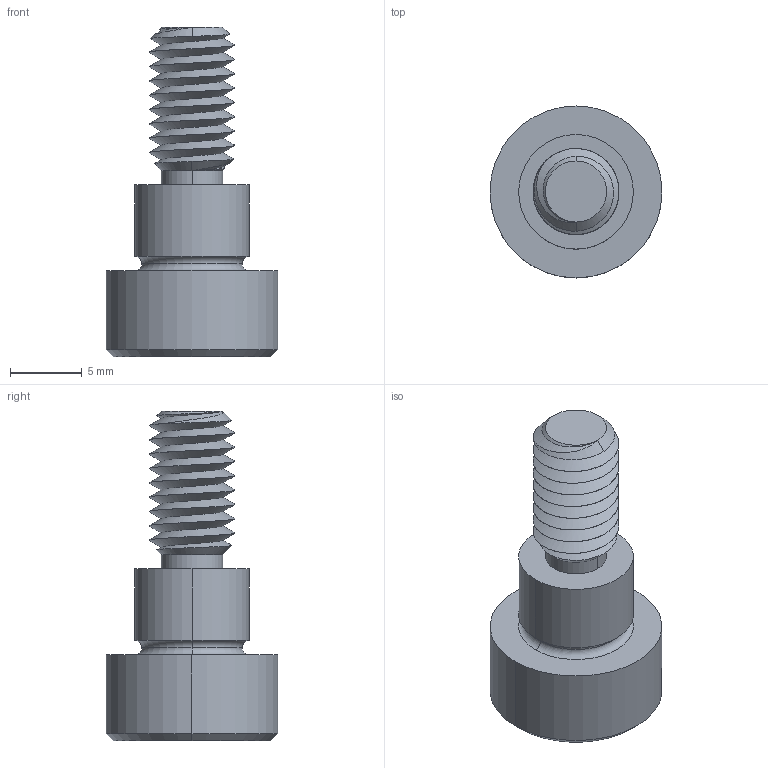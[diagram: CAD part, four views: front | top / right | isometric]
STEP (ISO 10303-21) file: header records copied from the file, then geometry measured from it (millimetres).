
FILE_DESCRIPTION (( 'STEP AP203' ), '1' );
FILE_NAME ('P0130.080-006-B2.step', '2021-11-09T21:33:54', ( '' ), ( '' ), 'SwSTEP 2.0', 'SolidWorks 2019', '' );
FILE_SCHEMA (( 'CONFIG_CONTROL_DESIGN' ));
Length unit declared in the file: millimetre
Products named in the file (1): P0130.080-006-B2
Bounding box: 12 x 12 x 23 mm (x, y, z)
Volume: 1126.9 mm3; surface area: 983.6 mm2
Topology: 1 solids, 1 shells, 60 faces, 142 edges, 85 vertices
Faces by surface type: cylinder 24, plane 16, cone 14, torus 4, bspline 2
Entity records: 4245 total; most frequent: CARTESIAN_POINT 2899, ORIENTED_EDGE 280, DIRECTION 247, EDGE_CURVE 140, AXIS2_PLACEMENT_3D 99, VERTEX_POINT 85, EDGE_LOOP 63, ADVANCED_FACE 60
